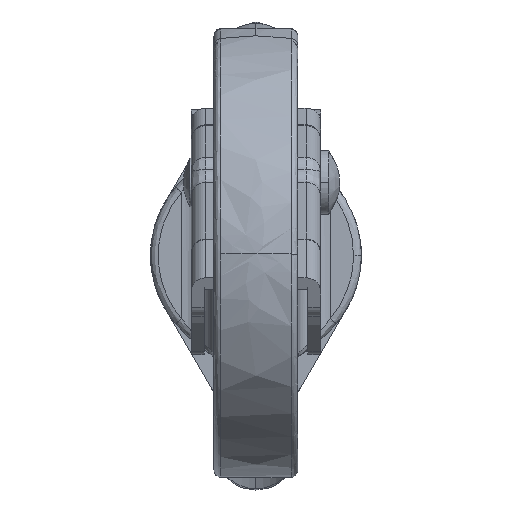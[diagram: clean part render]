
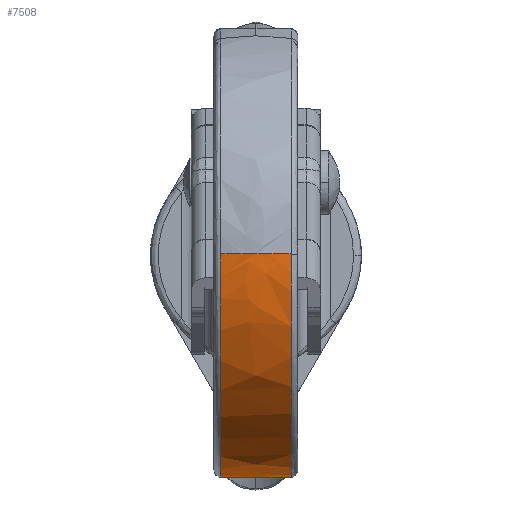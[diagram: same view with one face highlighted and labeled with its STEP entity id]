
A CAD part, top view. The second image highlights one B-rep face of the part: STEP entity #7508.
In plain terms, the highlighted free-form (B-spline) face has degree [3, 3] with [4, 4] control points.
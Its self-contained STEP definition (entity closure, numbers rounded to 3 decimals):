
#506 = VERTEX_POINT ( 'NONE', #10601 ) ;
#1401 = CARTESIAN_POINT ( 'NONE',  ( 2.178, -13.552, 37.245 ) ) ;
#1769 =( BOUNDED_CURVE ( )  B_SPLINE_CURVE ( 3, ( #1770, #1771, #1772, #1773 ),
 .UNSPECIFIED., .F., .F. ) 
 B_SPLINE_CURVE_WITH_KNOTS ( ( 4, 4 ),
 ( 0., 1. ),
 .UNSPECIFIED. ) 
 CURVE ( )  GEOMETRIC_REPRESENTATION_ITEM ( )  RATIONAL_B_SPLINE_CURVE ( ( 1., 0.755, 0.755, 1. ) ) 
 REPRESENTATION_ITEM ( '' )  );
#1770 = CARTESIAN_POINT ( 'NONE',  ( 2.178, -0.004, 53.83 ) ) ;
#1771 = CARTESIAN_POINT ( 'NONE',  ( 2.178, -9.456, 53.827 ) ) ;
#1772 = CARTESIAN_POINT ( 'NONE',  ( 2.178, -15.435, 46.507 ) ) ;
#1773 = CARTESIAN_POINT ( 'NONE',  ( 2.178, -13.552, 37.245 ) ) ;
#2595 = VERTEX_POINT ( 'NONE', #1401 ) ;
#2684 = CARTESIAN_POINT ( 'NONE',  ( 2.178, -0.004, 53.83 ) ) ;
#2818 = CARTESIAN_POINT ( 'NONE',  ( -2.178, 0., 53.83 ) ) ;
#2819 = EDGE_CURVE ( 'NONE', #3702, #2595, #1769, .T. ) ;
#3006 = CARTESIAN_POINT ( 'NONE',  ( -2.178, -13.552, 37.245 ) ) ;
#3306 =( BOUNDED_CURVE ( )  B_SPLINE_CURVE ( 3, ( #3307, #3308, #3309, #3310 ),
 .UNSPECIFIED., .F., .F. ) 
 B_SPLINE_CURVE_WITH_KNOTS ( ( 4, 4 ),
 ( 0., 1. ),
 .UNSPECIFIED. ) 
 CURVE ( )  GEOMETRIC_REPRESENTATION_ITEM ( )  RATIONAL_B_SPLINE_CURVE ( ( 1., 0.755, 0.755, 1. ) ) 
 REPRESENTATION_ITEM ( '' )  );
#3307 = CARTESIAN_POINT ( 'NONE',  ( -2.178, -13.552, 37.245 ) ) ;
#3308 = CARTESIAN_POINT ( 'NONE',  ( -2.178, -15.436, 46.509 ) ) ;
#3309 = CARTESIAN_POINT ( 'NONE',  ( -2.178, -9.454, 53.83 ) ) ;
#3310 = CARTESIAN_POINT ( 'NONE',  ( -2.178, 0., 53.83 ) ) ;
#3702 = VERTEX_POINT ( 'NONE', #2684 ) ;
#5650 = CIRCLE ( 'NONE', #5651, 14. ) ;
#5651 = AXIS2_PLACEMENT_3D ( 'NONE', #5652, #5653, #5654 ) ;
#5652 = CARTESIAN_POINT ( 'NONE',  ( 0., 0., 40. ) ) ;
#5653 = DIRECTION ( 'NONE',  ( 0., 1., 0. ) ) ;
#5654 = DIRECTION ( 'NONE',  ( -1., 0., 0. ) ) ;
#6080 = ORIENTED_EDGE ( 'NONE', *, *, #9553, .F. ) ;
#6224 = ORIENTED_EDGE ( 'NONE', *, *, #6759, .F. ) ;
#6353 = FACE_OUTER_BOUND ( 'NONE', #7268, .T. ) ;
#6354 =( BOUNDED_SURFACE ( )  B_SPLINE_SURFACE ( 3, 3, ( 
 ( #6358, #6359, #6360, #6361 ),
 ( #6362, #6363, #6364, #6365 ),
 ( #6366, #6367, #6368, #6369 ),
 ( #6370, #6371, #6372, #6373 ) ),
 .UNSPECIFIED., .F., .F., .T. ) 
 B_SPLINE_SURFACE_WITH_KNOTS ( ( 4, 4 ),
 ( 4, 4 ),
 ( 0.022, 1. ),
 ( 0., 1. ),
 .UNSPECIFIED. ) 
 GEOMETRIC_REPRESENTATION_ITEM ( )  RATIONAL_B_SPLINE_SURFACE ( (
 ( 0.983, 0.328, 0.328, 0.983),
 ( 0.747, 0.249, 0.249, 0.747),
 ( 0.752, 0.251, 0.251, 0.752),
 ( 1., 0.333, 0.333, 1.) ) ) 
 REPRESENTATION_ITEM ( '' )  SURFACE ( )  );
#6358 = CARTESIAN_POINT ( 'NONE',  ( -13.726, 0., 37.245 ) ) ;
#6359 = CARTESIAN_POINT ( 'NONE',  ( -13.726, -27.452, 37.245 ) ) ;
#6360 = CARTESIAN_POINT ( 'NONE',  ( 13.726, -27.452, 37.245 ) ) ;
#6361 = CARTESIAN_POINT ( 'NONE',  ( 13.726, 0., 37.245 ) ) ;
#6362 = CARTESIAN_POINT ( 'NONE',  ( -15.613, 0., 46.645 ) ) ;
#6363 = CARTESIAN_POINT ( 'NONE',  ( -15.613, -31.226, 46.645 ) ) ;
#6364 = CARTESIAN_POINT ( 'NONE',  ( 15.613, -31.226, 46.645 ) ) ;
#6365 = CARTESIAN_POINT ( 'NONE',  ( 15.613, 0., 46.645 ) ) ;
#6366 = CARTESIAN_POINT ( 'NONE',  ( -9.517, 0., 54. ) ) ;
#6367 = CARTESIAN_POINT ( 'NONE',  ( -9.517, -19.035, 54. ) ) ;
#6368 = CARTESIAN_POINT ( 'NONE',  ( 9.517, -19.035, 54. ) ) ;
#6369 = CARTESIAN_POINT ( 'NONE',  ( 9.517, 0., 54. ) ) ;
#6370 = CARTESIAN_POINT ( 'NONE',  ( 0., 0., 54. ) ) ;
#6371 = CARTESIAN_POINT ( 'NONE',  ( 0., 0., 54. ) ) ;
#6372 = CARTESIAN_POINT ( 'NONE',  ( 0., 0., 54. ) ) ;
#6373 = CARTESIAN_POINT ( 'NONE',  ( 0., 0., 54. ) ) ;
#6576 = CARTESIAN_POINT ( 'NONE',  ( 0., 0., 54. ) ) ;
#6739 = ORIENTED_EDGE ( 'NONE', *, *, #11281, .F. ) ;
#6759 = EDGE_CURVE ( 'NONE', #7636, #506, #5650, .T. ) ;
#6760 = ORIENTED_EDGE ( 'NONE', *, *, #7850, .F. ) ;
#6874 = CIRCLE ( 'NONE', #6875, 14. ) ;
#6875 = AXIS2_PLACEMENT_3D ( 'NONE', #6876, #6877, #6878 ) ;
#6876 = CARTESIAN_POINT ( 'NONE',  ( 0., 0., 40. ) ) ;
#6877 = DIRECTION ( 'NONE',  ( 0., 1., 0. ) ) ;
#6878 = DIRECTION ( 'NONE',  ( 0., 0., 1. ) ) ;
#6916 = CIRCLE ( 'NONE', #6917, 13.726 ) ;
#6917 = AXIS2_PLACEMENT_3D ( 'NONE', #6918, #6919, #6920 ) ;
#6918 = CARTESIAN_POINT ( 'NONE',  ( 0., 0., 37.245 ) ) ;
#6919 = DIRECTION ( 'NONE',  ( 0., 0., 1. ) ) ;
#6920 = DIRECTION ( 'NONE',  ( -1., 0., 0. ) ) ;
#7268 = EDGE_LOOP ( 'NONE', ( #6760, #6080, #8307, #7435, #6739, #6224 ) ) ;
#7435 = ORIENTED_EDGE ( 'NONE', *, *, #2819, .F. ) ;
#7508 = ADVANCED_FACE ( 'NONE', ( #6353 ), #6354, .F. ) ;
#7636 = VERTEX_POINT ( 'NONE', #6576 ) ;
#7850 = EDGE_CURVE ( 'NONE', #9500, #7636, #6874, .T. ) ;
#7942 = EDGE_CURVE ( 'NONE', #9532, #2595, #6916, .T. ) ;
#8225 =( BOUNDED_CURVE ( )  B_SPLINE_CURVE ( 3, ( #8226, #8227, #8228, #8229 ),
 .UNSPECIFIED., .F., .F. ) 
 B_SPLINE_CURVE_WITH_KNOTS ( ( 4, 4 ),
 ( 0., 0. ),
 .UNSPECIFIED. ) 
 CURVE ( )  GEOMETRIC_REPRESENTATION_ITEM ( )  RATIONAL_B_SPLINE_CURVE ( ( 1., 1., 1., 1. ) ) 
 REPRESENTATION_ITEM ( '' )  );
#8226 = CARTESIAN_POINT ( 'NONE',  ( 2.178, 0., 53.83 ) ) ;
#8227 = CARTESIAN_POINT ( 'NONE',  ( 2.178, -0.001, 53.83 ) ) ;
#8228 = CARTESIAN_POINT ( 'NONE',  ( 2.178, -0.003, 53.83 ) ) ;
#8229 = CARTESIAN_POINT ( 'NONE',  ( 2.178, -0.004, 53.83 ) ) ;
#8307 = ORIENTED_EDGE ( 'NONE', *, *, #7942, .T. ) ;
#9500 = VERTEX_POINT ( 'NONE', #2818 ) ;
#9532 = VERTEX_POINT ( 'NONE', #3006 ) ;
#9553 = EDGE_CURVE ( 'NONE', #9532, #9500, #3306, .T. ) ;
#10601 = CARTESIAN_POINT ( 'NONE',  ( 2.178, 0., 53.83 ) ) ;
#11281 = EDGE_CURVE ( 'NONE', #506, #3702, #8225, .T. ) ;
